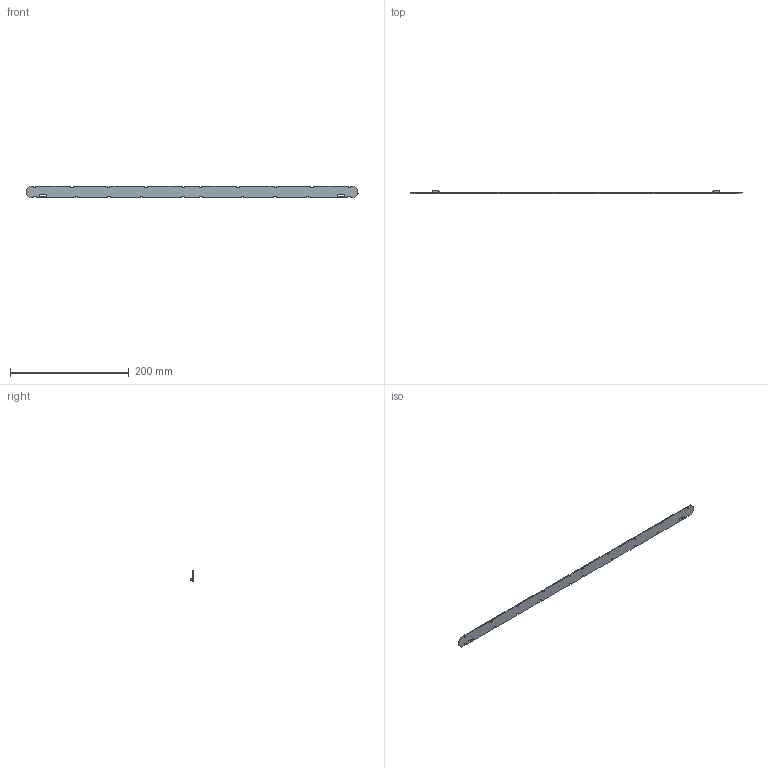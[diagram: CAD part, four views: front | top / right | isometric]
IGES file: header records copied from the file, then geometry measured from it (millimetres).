
Start section: SolidWorks IGES file using analytic representation for surfaces
Global section: file name: D:\ECTR_TEMP\OLQ-batchEngine\queue\temp\4162893swm000.igs; native system: SolidWorks 2017; preprocessor: SolidWorks 2017; author: SYSTEM; date: 200219.153034; units: millimetre
Bounding box: 559.5 x 5.55 x 20 mm (x, y, z)
Surface area: 26893.1 mm2 (no closed solid volume)
Topology: 0 solids, 0 shells, 1976 faces, 11240 edges, 11238 vertices
Faces by surface type: bspline 1870, revolution 106
